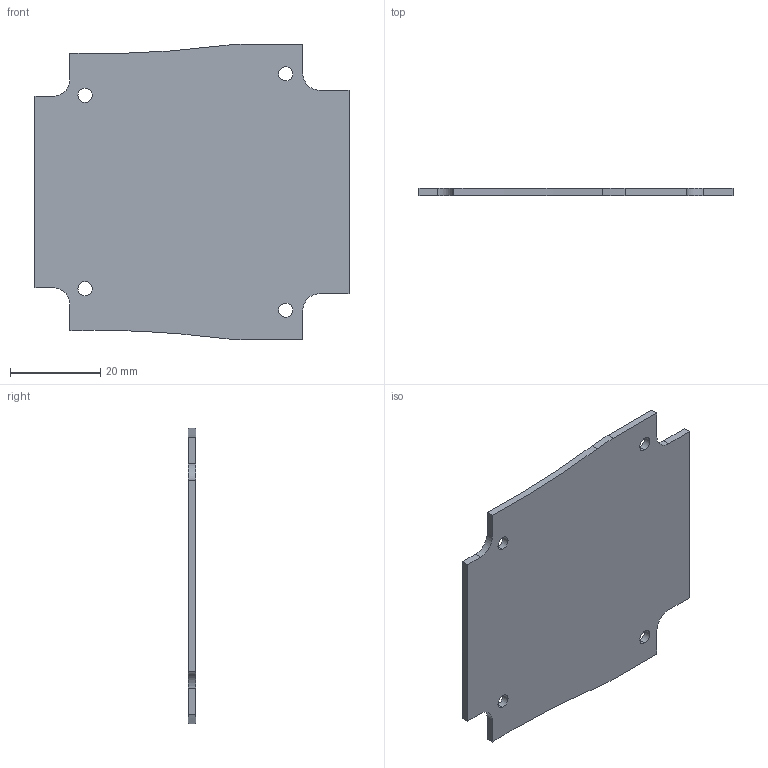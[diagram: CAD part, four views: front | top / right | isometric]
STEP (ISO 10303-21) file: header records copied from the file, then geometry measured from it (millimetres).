
FILE_DESCRIPTION (( 'STEP AP214' ), '1' );
FILE_NAME ('VM-24C-PCB.STEP', '2025-03-26T16:55:13', ( '' ), ( '' ), 'SwSTEP 2.0', 'SolidWorks 2025', '' );
FILE_SCHEMA (( 'AUTOMOTIVE_DESIGN' ));
Length unit declared in the file: inch
Products named in the file (1): VM-24C-PCB
Bounding box: 69.6 x 1.6 x 65.47 mm (x, y, z)
Volume: 6469.5 mm3; surface area: 8565.9 mm2
Topology: 1 solids, 1 shells, 31 faces, 87 edges, 58 vertices
Faces by surface type: cylinder 17, plane 14
Entity records: 1058 total; most frequent: DIRECTION 185, CARTESIAN_POINT 177, ORIENTED_EDGE 174, EDGE_CURVE 87, AXIS2_PLACEMENT_3D 66, VERTEX_POINT 58, LINE 53, VECTOR 53
